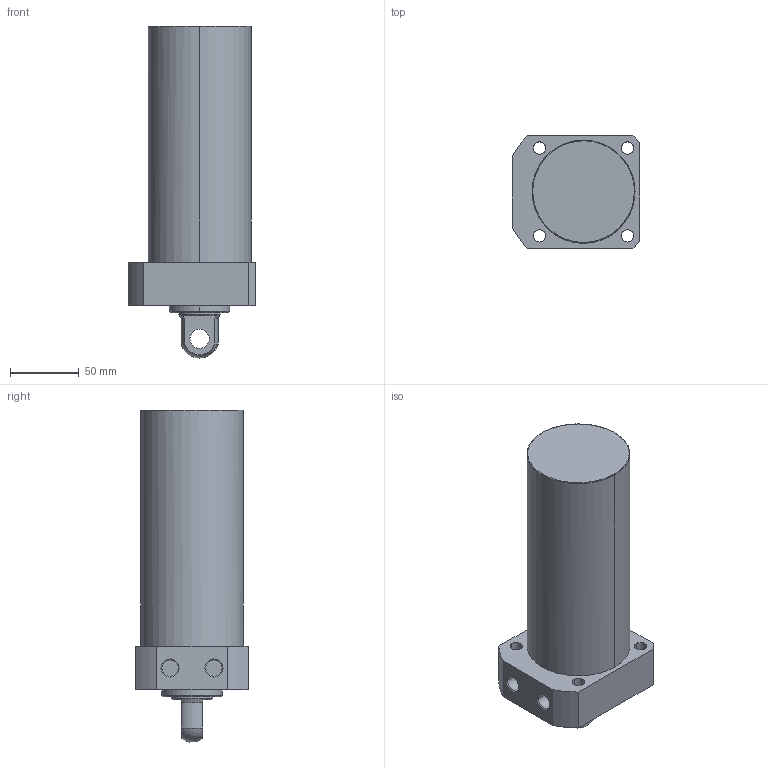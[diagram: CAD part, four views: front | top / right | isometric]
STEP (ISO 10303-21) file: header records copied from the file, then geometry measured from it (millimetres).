
FILE_DESCRIPTION((' '),'2;1');
FILE_NAME( 'TLLR-075CP-140.STEP.stp', '2025-10-24T16:35:16', (' '), ('--- Datakit www.datakit.com---'), ' Datakit CrossCadWare V2024.1 Dec 21 2023', 'Mastercam 2025', ' ');
FILE_SCHEMA(('AUTOMOTIVE_DESIGN { 1 0 10303 214 1 1 1 1 }'));
Length unit declared in the file: millimetre
Products named in the file (1): TLLR-075CP-140
Bounding box: 93 x 82 x 241.9 mm (x, y, z)
Volume: 1003322.8 mm3; surface area: 73765.1 mm2
Topology: 1 solids, 1 shells, 57 faces, 164 edges, 116 vertices
Faces by surface type: cylinder 28, plane 18, cone 8, torus 2, sphere 1
Entity records: 2006 total; most frequent: DIRECTION 378, CARTESIAN_POINT 350, ORIENTED_EDGE 328, EDGE_CURVE 164, AXIS2_PLACEMENT_3D 160, VERTEX_POINT 116, CIRCLE 102, EDGE_LOOP 74
